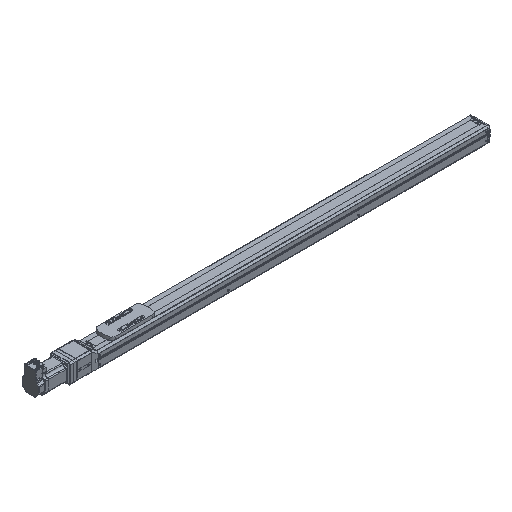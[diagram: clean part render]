
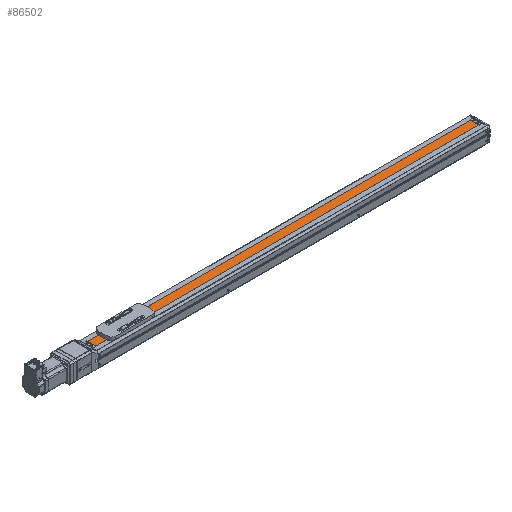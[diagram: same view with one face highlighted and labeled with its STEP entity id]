
A CAD part, isometric view. The second image highlights one B-rep face of the part: STEP entity #86502.
In plain terms, the highlighted planar face has unit normal (0, 0, 1) as drawn and (0, 1, 0) by its records, which use the part's own axes.
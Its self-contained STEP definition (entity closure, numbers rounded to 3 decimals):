
#86502 = ADVANCED_FACE('',(#86503),#86517,.T.);
#86503 = FACE_BOUND('',#86504,.T.);
#86504 = EDGE_LOOP('',(#86505,#86540,#86568,#86596));
#86505 = ORIENTED_EDGE('',*,*,#86506,.F.);
#86506 = EDGE_CURVE('',#86507,#86509,#86511,.T.);
#86507 = VERTEX_POINT('',#86508);
#86508 = CARTESIAN_POINT('',(-1230.5,18.,-13.));
#86509 = VERTEX_POINT('',#86510);
#86510 = CARTESIAN_POINT('',(-21.5,18.,-13.));
#86511 = SURFACE_CURVE('',#86512,(#86516,#86528),.PCURVE_S1.);
#86512 = LINE('',#86513,#86514);
#86513 = CARTESIAN_POINT('',(-1230.5,18.,-13.));
#86514 = VECTOR('',#86515,1.);
#86515 = DIRECTION('',(1.,0.,0.));
#86516 = PCURVE('',#86517,#86522);
#86517 = PLANE('',#86518);
#86518 = AXIS2_PLACEMENT_3D('',#86519,#86520,#86521);
#86519 = CARTESIAN_POINT('',(-1240.5,18.,-26.583));
#86520 = DIRECTION('',(0.,1.,0.));
#86521 = DIRECTION('',(0.,-0.,1.));
#86522 = DEFINITIONAL_REPRESENTATION('',(#86523),#86527);
#86523 = LINE('',#86524,#86525);
#86524 = CARTESIAN_POINT('',(13.583,10.));
#86525 = VECTOR('',#86526,1.);
#86526 = DIRECTION('',(0.,1.));
#86527 = ( GEOMETRIC_REPRESENTATION_CONTEXT(2) 
PARAMETRIC_REPRESENTATION_CONTEXT() REPRESENTATION_CONTEXT('2D SPACE',''
  ) );
#86528 = PCURVE('',#86529,#86534);
#86529 = PLANE('',#86530);
#86530 = AXIS2_PLACEMENT_3D('',#86531,#86532,#86533);
#86531 = CARTESIAN_POINT('',(-1230.5,18.,-13.));
#86532 = DIRECTION('',(0.,0.,1.));
#86533 = DIRECTION('',(1.,0.,-0.));
#86534 = DEFINITIONAL_REPRESENTATION('',(#86535),#86539);
#86535 = LINE('',#86536,#86537);
#86536 = CARTESIAN_POINT('',(0.,0.));
#86537 = VECTOR('',#86538,1.);
#86538 = DIRECTION('',(1.,0.));
#86539 = ( GEOMETRIC_REPRESENTATION_CONTEXT(2) 
PARAMETRIC_REPRESENTATION_CONTEXT() REPRESENTATION_CONTEXT('2D SPACE',''
  ) );
#86540 = ORIENTED_EDGE('',*,*,#86541,.T.);
#86541 = EDGE_CURVE('',#86507,#86542,#86544,.T.);
#86542 = VERTEX_POINT('',#86543);
#86543 = CARTESIAN_POINT('',(-1230.5,18.,13.));
#86544 = SURFACE_CURVE('',#86545,(#86549,#86556),.PCURVE_S1.);
#86545 = LINE('',#86546,#86547);
#86546 = CARTESIAN_POINT('',(-1230.5,18.,-26.583));
#86547 = VECTOR('',#86548,1.);
#86548 = DIRECTION('',(0.,0.,1.));
#86549 = PCURVE('',#86517,#86550);
#86550 = DEFINITIONAL_REPRESENTATION('',(#86551),#86555);
#86551 = LINE('',#86552,#86553);
#86552 = CARTESIAN_POINT('',(0.,10.));
#86553 = VECTOR('',#86554,1.);
#86554 = DIRECTION('',(1.,0.));
#86555 = ( GEOMETRIC_REPRESENTATION_CONTEXT(2) 
PARAMETRIC_REPRESENTATION_CONTEXT() REPRESENTATION_CONTEXT('2D SPACE',''
  ) );
#86556 = PCURVE('',#86557,#86562);
#86557 = PLANE('',#86558);
#86558 = AXIS2_PLACEMENT_3D('',#86559,#86560,#86561);
#86559 = CARTESIAN_POINT('',(-1230.5,0.,0.));
#86560 = DIRECTION('',(1.,0.,0.));
#86561 = DIRECTION('',(0.,0.,-1.));
#86562 = DEFINITIONAL_REPRESENTATION('',(#86563),#86567);
#86563 = LINE('',#86564,#86565);
#86564 = CARTESIAN_POINT('',(26.583,18.));
#86565 = VECTOR('',#86566,1.);
#86566 = DIRECTION('',(-1.,0.));
#86567 = ( GEOMETRIC_REPRESENTATION_CONTEXT(2) 
PARAMETRIC_REPRESENTATION_CONTEXT() REPRESENTATION_CONTEXT('2D SPACE',''
  ) );
#86568 = ORIENTED_EDGE('',*,*,#86569,.T.);
#86569 = EDGE_CURVE('',#86542,#86570,#86572,.T.);
#86570 = VERTEX_POINT('',#86571);
#86571 = CARTESIAN_POINT('',(-21.5,18.,13.));
#86572 = SURFACE_CURVE('',#86573,(#86577,#86584),.PCURVE_S1.);
#86573 = LINE('',#86574,#86575);
#86574 = CARTESIAN_POINT('',(-1230.5,18.,13.));
#86575 = VECTOR('',#86576,1.);
#86576 = DIRECTION('',(1.,0.,0.));
#86577 = PCURVE('',#86517,#86578);
#86578 = DEFINITIONAL_REPRESENTATION('',(#86579),#86583);
#86579 = LINE('',#86580,#86581);
#86580 = CARTESIAN_POINT('',(39.583,10.));
#86581 = VECTOR('',#86582,1.);
#86582 = DIRECTION('',(0.,1.));
#86583 = ( GEOMETRIC_REPRESENTATION_CONTEXT(2) 
PARAMETRIC_REPRESENTATION_CONTEXT() REPRESENTATION_CONTEXT('2D SPACE',''
  ) );
#86584 = PCURVE('',#86585,#86590);
#86585 = PLANE('',#86586);
#86586 = AXIS2_PLACEMENT_3D('',#86587,#86588,#86589);
#86587 = CARTESIAN_POINT('',(-1230.5,15.,13.));
#86588 = DIRECTION('',(0.,0.,-1.));
#86589 = DIRECTION('',(-1.,0.,0.));
#86590 = DEFINITIONAL_REPRESENTATION('',(#86591),#86595);
#86591 = LINE('',#86592,#86593);
#86592 = CARTESIAN_POINT('',(0.,3.));
#86593 = VECTOR('',#86594,1.);
#86594 = DIRECTION('',(-1.,0.));
#86595 = ( GEOMETRIC_REPRESENTATION_CONTEXT(2) 
PARAMETRIC_REPRESENTATION_CONTEXT() REPRESENTATION_CONTEXT('2D SPACE',''
  ) );
#86596 = ORIENTED_EDGE('',*,*,#86597,.T.);
#86597 = EDGE_CURVE('',#86570,#86509,#86598,.T.);
#86598 = SURFACE_CURVE('',#86599,(#86603,#86610),.PCURVE_S1.);
#86599 = LINE('',#86600,#86601);
#86600 = CARTESIAN_POINT('',(-21.5,18.,-26.583));
#86601 = VECTOR('',#86602,1.);
#86602 = DIRECTION('',(0.,0.,-1.));
#86603 = PCURVE('',#86517,#86604);
#86604 = DEFINITIONAL_REPRESENTATION('',(#86605),#86609);
#86605 = LINE('',#86606,#86607);
#86606 = CARTESIAN_POINT('',(0.,1219.));
#86607 = VECTOR('',#86608,1.);
#86608 = DIRECTION('',(-1.,0.));
#86609 = ( GEOMETRIC_REPRESENTATION_CONTEXT(2) 
PARAMETRIC_REPRESENTATION_CONTEXT() REPRESENTATION_CONTEXT('2D SPACE',''
  ) );
#86610 = PCURVE('',#86611,#86616);
#86611 = PLANE('',#86612);
#86612 = AXIS2_PLACEMENT_3D('',#86613,#86614,#86615);
#86613 = CARTESIAN_POINT('',(-21.5,0.,0.));
#86614 = DIRECTION('',(1.,0.,0.));
#86615 = DIRECTION('',(0.,0.,-1.));
#86616 = DEFINITIONAL_REPRESENTATION('',(#86617),#86621);
#86617 = LINE('',#86618,#86619);
#86618 = CARTESIAN_POINT('',(26.583,18.));
#86619 = VECTOR('',#86620,1.);
#86620 = DIRECTION('',(1.,0.));
#86621 = ( GEOMETRIC_REPRESENTATION_CONTEXT(2) 
PARAMETRIC_REPRESENTATION_CONTEXT() REPRESENTATION_CONTEXT('2D SPACE',''
  ) );
